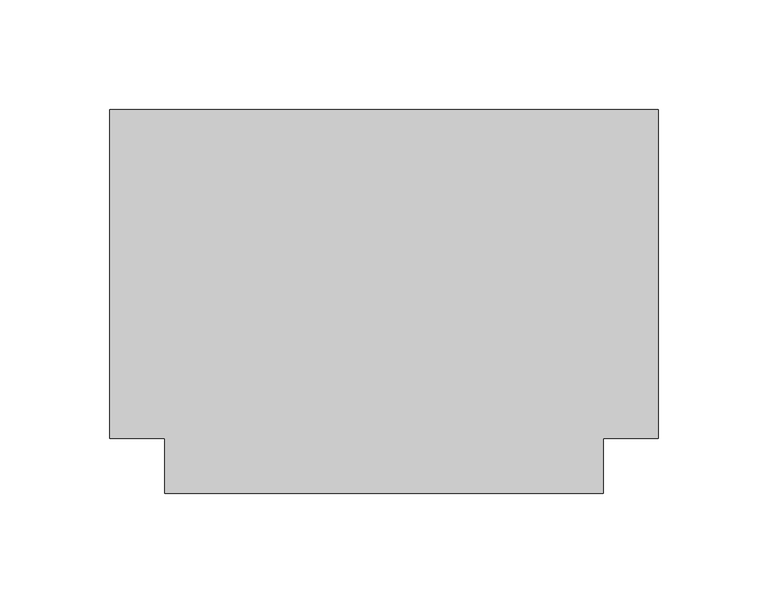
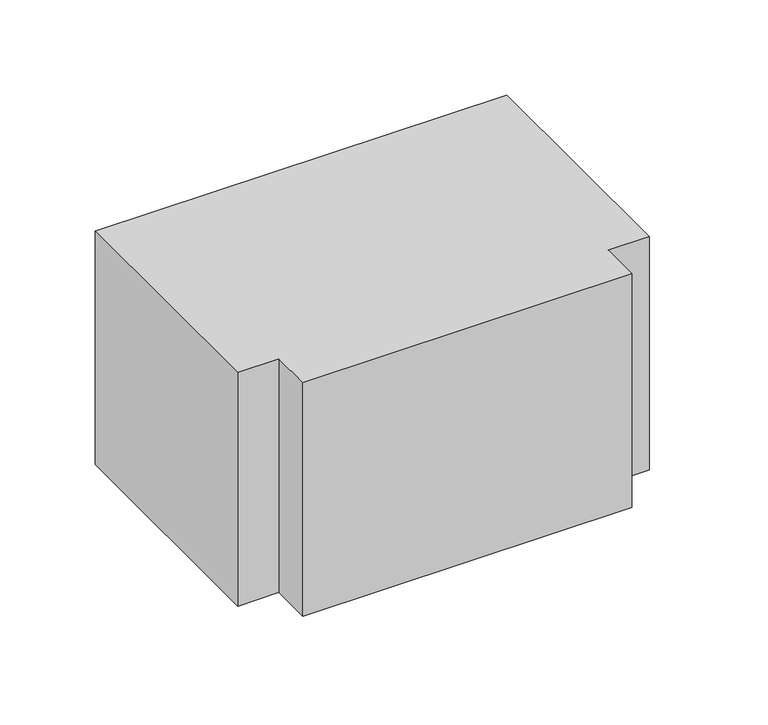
"""IFC4 building model written with IfcOpenShell, lengths in millimetres: duct fitting geometry, M_Te rectangular : Estándar."""

from ifc_helpers import new_model, si_unit, frame, origin, place, context, project, spatial, polyline, outline, extrude, source, transform, mapped, element, save


def duct_fitting_09121283(model_context):
    return source(origin(), model_context, "Body", "SweptSolid", [
        extrude(outline(polyline([(-125.0, -75.0), (-125.0, 75.0), (125.0, 75.0), (125.0, -75.0), (100.0, -75.0), (100.0, -100.0), (-100.0, -100.0), (-100.0, -75.0), (-125.0, -75.0)])), frame((0.0, 0.0, -75.0), z_axis=(0.0, 0.0, 1.0), x_axis=(1.0, 0.0, 0.0)), (0.0, 0.0, 1.0), 150.0),
    ])


if __name__ == "__main__":
    model = new_model("IFC4")
    model_context = context("Model", 3, world=origin())
    ifc_project = project(units=[si_unit("LENGTHUNIT", "METRE", prefix="MILLI")], contexts=[model_context])
    site = spatial("IfcSite", under=ifc_project)
    building = spatial("IfcBuilding", under=site)
    placement = place(None, origin())
    duct_fitting_shape = duct_fitting_09121283(model_context)
    element("IfcDuctFitting", 1, ObjectType="M_Te rectangular : Estándar", at=placement, inside=building, context=model_context, shape_type="MappedRepresentation", body=[
        mapped(duct_fitting_shape, transform((0.0, 0.0, 0.0), x_axis=(1.0, 0.0, 0.0), y_axis=(0.0, 1.0, 0.0), z_axis=(0.0, 0.0, 1.0))),
    ])
    save(model, "model.ifc")
